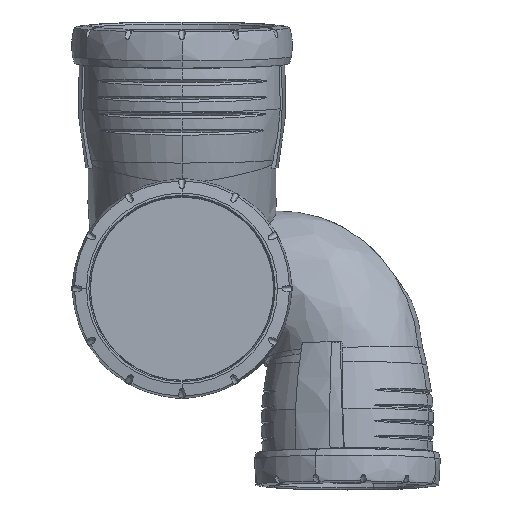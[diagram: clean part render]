
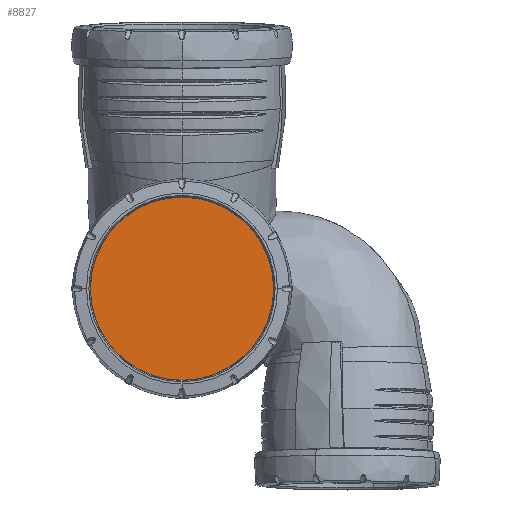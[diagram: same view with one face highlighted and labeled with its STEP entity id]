
A CAD part, top view. The second image highlights one B-rep face of the part: STEP entity #8827.
In plain terms, the highlighted planar face has unit normal (0, 0, 1).
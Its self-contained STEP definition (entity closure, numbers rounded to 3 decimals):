
#201=PLANE('',#9419);
#378=CIRCLE('',#9374,45.45);
#379=CIRCLE('',#9376,45.45);
#380=CIRCLE('',#9378,45.45);
#381=CIRCLE('',#9380,45.45);
#1201=FACE_OUTER_BOUND('',#1717,.T.);
#1717=EDGE_LOOP('',(#6324,#6325,#6326,#6327));
#3359=VERTEX_POINT('',#19057);
#3360=VERTEX_POINT('',#19058);
#3361=VERTEX_POINT('',#19063);
#3362=VERTEX_POINT('',#19067);
#4369=EDGE_CURVE('',#3359,#3360,#378,.T.);
#4372=EDGE_CURVE('',#3360,#3361,#379,.T.);
#4374=EDGE_CURVE('',#3361,#3362,#380,.T.);
#4376=EDGE_CURVE('',#3362,#3359,#381,.T.);
#6324=ORIENTED_EDGE('',*,*,#4376,.F.);
#6325=ORIENTED_EDGE('',*,*,#4374,.F.);
#6326=ORIENTED_EDGE('',*,*,#4372,.F.);
#6327=ORIENTED_EDGE('',*,*,#4369,.F.);
#8827=ADVANCED_FACE('',(#1201),#201,.T.);
#9374=AXIS2_PLACEMENT_3D('',#19059,#10434,#10435);
#9376=AXIS2_PLACEMENT_3D('',#19064,#10440,#10441);
#9378=AXIS2_PLACEMENT_3D('',#19068,#10445,#10446);
#9380=AXIS2_PLACEMENT_3D('',#19071,#10450,#10451);
#9419=AXIS2_PLACEMENT_3D('',#20563,#10537,#10538);
#10434=DIRECTION('center_axis',(0.,0.,
-1.));
#10435=DIRECTION('ref_axis',(-0.617,0.787,0.));
#10440=DIRECTION('center_axis',(0.,0.,
-1.));
#10441=DIRECTION('ref_axis',(0.,1.,0.));
#10445=DIRECTION('center_axis',(0.,0.,
-1.));
#10446=DIRECTION('ref_axis',(1.,0.,0.));
#10450=DIRECTION('center_axis',(0.,0.,
-1.));
#10451=DIRECTION('ref_axis',(-0.617,-0.787,0.));
#10537=DIRECTION('center_axis',(0.,0.,
1.));
#10538=DIRECTION('ref_axis',(1.,0.,0.));
#19057=CARTESIAN_POINT('',(-45.45,0.,179.95));
#19058=CARTESIAN_POINT('',(0.,45.45,179.95));
#19059=CARTESIAN_POINT('Origin',(0.,0.,
179.95));
#19063=CARTESIAN_POINT('',(45.45,0.,179.95));
#19064=CARTESIAN_POINT('Origin',(0.,0.,
179.95));
#19067=CARTESIAN_POINT('',(0.,-45.45,179.95));
#19068=CARTESIAN_POINT('Origin',(0.,0.,
179.95));
#19071=CARTESIAN_POINT('Origin',(0.,0.,
179.95));
#20563=CARTESIAN_POINT('Origin',(-45.45,-45.45,179.95));
